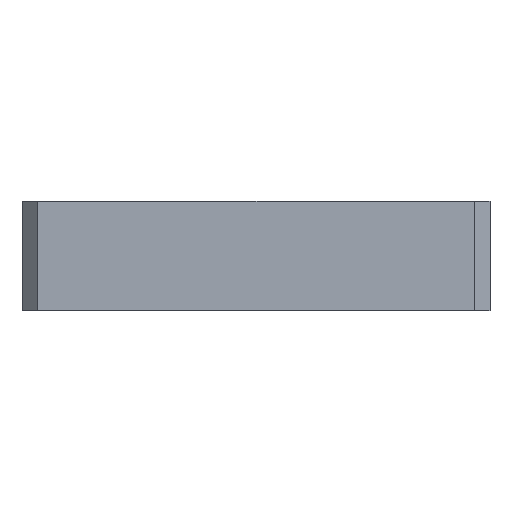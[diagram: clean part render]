
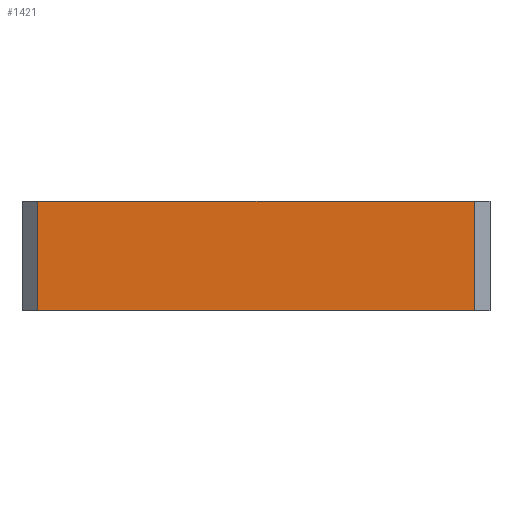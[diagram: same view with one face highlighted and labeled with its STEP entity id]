
A CAD part, front view. The second image highlights one B-rep face of the part: STEP entity #1421.
In plain terms, the highlighted planar face has unit normal (0, -1, 0).
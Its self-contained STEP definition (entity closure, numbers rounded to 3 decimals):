
#1408=AXIS2_PLACEMENT_3D('Plane Axis2P3D',#1405,#1406,#1407) ;
#141=CARTESIAN_POINT('Vertex',(145.5,-53.,0.)) ;
#144=CARTESIAN_POINT('Line Origine',(75.5,-53.,0.)) ;
#148=CARTESIAN_POINT('Vertex',(5.5,-53.,0.)) ;
#375=CARTESIAN_POINT('Vertex',(5.5,-53.,35.)) ;
#378=CARTESIAN_POINT('Line Origine',(75.5,-53.,35.)) ;
#382=CARTESIAN_POINT('Vertex',(145.5,-53.,35.)) ;
#1393=CARTESIAN_POINT('Line Origine',(145.5,-53.,17.5)) ;
#1405=CARTESIAN_POINT('Axis2P3D Location',(150.5,-53.,0.)) ;
#1410=CARTESIAN_POINT('Line Origine',(5.5,-53.,17.5)) ;
#145=DIRECTION('Vector Direction',(-1.,0.,0.)) ;
#379=DIRECTION('Vector Direction',(-1.,0.,0.)) ;
#1394=DIRECTION('Vector Direction',(0.,0.,1.)) ;
#1406=DIRECTION('Axis2P3D Direction',(0.,1.,-0.)) ;
#1407=DIRECTION('Axis2P3D XDirection',(-1.,0.,0.)) ;
#1411=DIRECTION('Vector Direction',(0.,0.,-1.)) ;
#146=VECTOR('Line Direction',#145,1.) ;
#380=VECTOR('Line Direction',#379,1.) ;
#1395=VECTOR('Line Direction',#1394,1.) ;
#1412=VECTOR('Line Direction',#1411,1.) ;
#1416=ORIENTED_EDGE('',*,*,#1397,.T.) ;
#1417=ORIENTED_EDGE('',*,*,#384,.F.) ;
#1418=ORIENTED_EDGE('',*,*,#1414,.F.) ;
#1419=ORIENTED_EDGE('',*,*,#150,.T.) ;
#1421=ADVANCED_FACE('PartBody',(#1420),#1409,.F.) ;
#150=EDGE_CURVE('',#149,#142,#147,.F.) ;
#384=EDGE_CURVE('',#376,#383,#381,.F.) ;
#1397=EDGE_CURVE('',#142,#383,#1396,.T.) ;
#1414=EDGE_CURVE('',#149,#376,#1413,.F.) ;
#1415=EDGE_LOOP('',(#1416,#1417,#1418,#1419)) ;
#1420=FACE_OUTER_BOUND('',#1415,.T.) ;
#147=LINE('Line',#144,#146) ;
#381=LINE('Line',#378,#380) ;
#1396=LINE('Line',#1393,#1395) ;
#1413=LINE('Line',#1410,#1412) ;
#1409=PLANE('',#1408) ;
#142=VERTEX_POINT('',#141) ;
#149=VERTEX_POINT('',#148) ;
#376=VERTEX_POINT('',#375) ;
#383=VERTEX_POINT('',#382) ;
